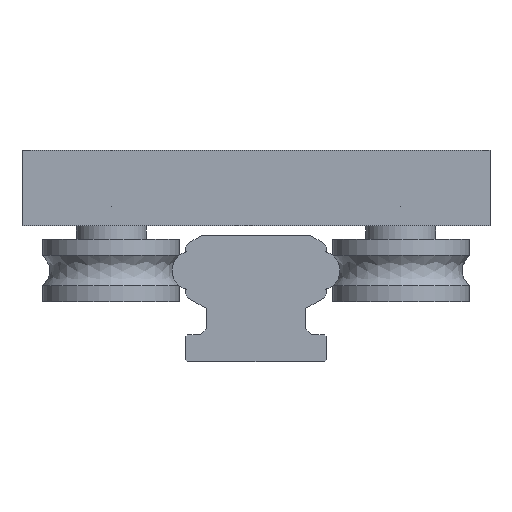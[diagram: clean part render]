
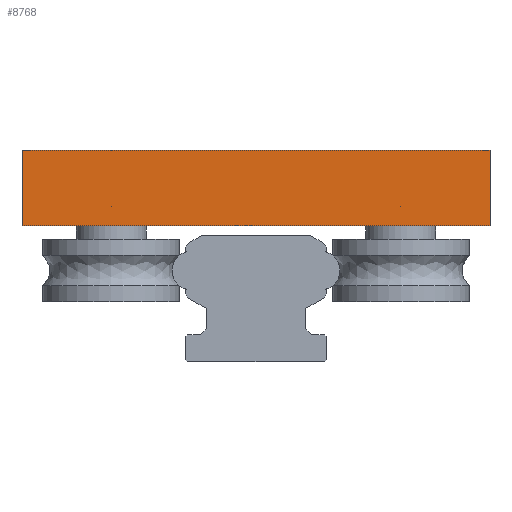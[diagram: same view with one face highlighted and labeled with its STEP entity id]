
A CAD part, left-side view. The second image highlights one B-rep face of the part: STEP entity #8768.
In plain terms, the highlighted planar face has unit normal (-1, 0, 0).
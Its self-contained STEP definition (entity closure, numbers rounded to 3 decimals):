
#8588=CARTESIAN_POINT('',(0.0,-60.0,30.9));
#8589=VERTEX_POINT('',#8588);
#8596=CARTESIAN_POINT('',(0.0,-60.0,11.5));
#8597=VERTEX_POINT('',#8596);
#8598=CARTESIAN_POINT('',(0.0,-60.0,30.9));
#8599=DIRECTION('',(0.0,0.0,-1.0));
#8600=VECTOR('',#8599,19.4);
#8601=LINE('',#8598,#8600);
#8602=EDGE_CURVE('',#8589,#8597,#8601,.T.);
#8626=CARTESIAN_POINT('',(0.0,60.0,30.9));
#8627=VERTEX_POINT('',#8626);
#8634=CARTESIAN_POINT('',(0.0,60.0,30.9));
#8635=DIRECTION('',(0.0,-1.0,0.0));
#8636=VECTOR('',#8635,120.0);
#8637=LINE('',#8634,#8636);
#8638=EDGE_CURVE('',#8627,#8589,#8637,.T.);
#8687=CARTESIAN_POINT('',(0.0,60.0,11.5));
#8688=VERTEX_POINT('',#8687);
#8695=CARTESIAN_POINT('',(0.0,60.0,11.5));
#8696=DIRECTION('',(0.0,0.0,1.0));
#8697=VECTOR('',#8696,19.4);
#8698=LINE('',#8695,#8697);
#8699=EDGE_CURVE('',#8688,#8627,#8698,.T.);
#8717=CARTESIAN_POINT('',(0.0,-60.0,11.5));
#8718=DIRECTION('',(0.0,1.0,0.0));
#8719=VECTOR('',#8718,120.0);
#8720=LINE('',#8717,#8719);
#8721=EDGE_CURVE('',#8597,#8688,#8720,.T.);
#8757=CARTESIAN_POINT('',(0.0,0.0,21.2));
#8758=DIRECTION('',(1.0,0.0,0.0));
#8759=DIRECTION('',(0.0,0.0,-1.0));
#8760=AXIS2_PLACEMENT_3D('',#8757,#8758,#8759);
#8761=PLANE('',#8760);
#8762=ORIENTED_EDGE('',*,*,#8721,.F.);
#8763=ORIENTED_EDGE('',*,*,#8602,.F.);
#8764=ORIENTED_EDGE('',*,*,#8638,.F.);
#8765=ORIENTED_EDGE('',*,*,#8699,.F.);
#8766=EDGE_LOOP('',(#8762,#8763,#8764,#8765));
#8767=FACE_OUTER_BOUND('',#8766,.T.);
#8768=ADVANCED_FACE('',(#8767),#8761,.F.);
